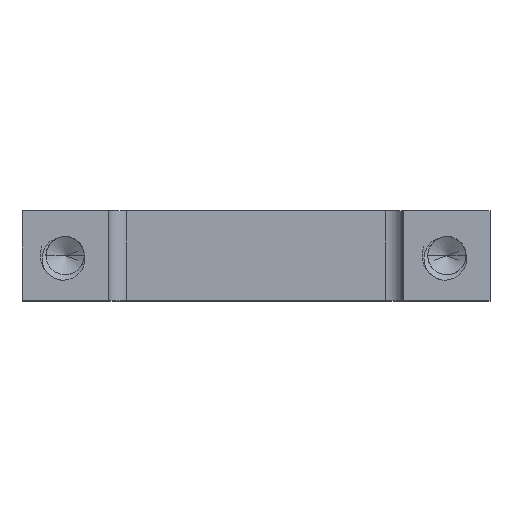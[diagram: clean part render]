
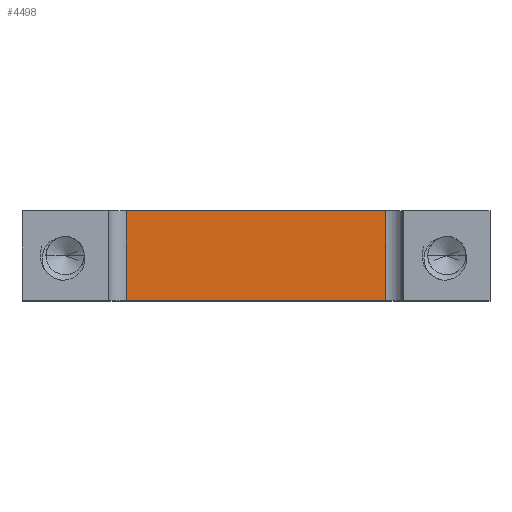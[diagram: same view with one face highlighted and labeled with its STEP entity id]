
A CAD part, top view. The second image highlights one B-rep face of the part: STEP entity #4498.
In plain terms, the highlighted planar face has unit normal (0, 0, 1).
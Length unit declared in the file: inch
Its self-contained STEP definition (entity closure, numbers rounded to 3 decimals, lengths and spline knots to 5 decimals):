
#127 = LINE ( 'NONE', #22335, #18244 ) ;
#1130 = ORIENTED_EDGE ( 'NONE', *, *, #7258, .T. ) ;
#1392 = CARTESIAN_POINT ( 'NONE',  ( -0.41035, 0., 0.5375 ) ) ;
#2219 = ORIENTED_EDGE ( 'NONE', *, *, #14670, .T. ) ;
#2321 = ORIENTED_EDGE ( 'NONE', *, *, #4918, .T. ) ;
#3186 = VECTOR ( 'NONE', #6502, 39.37008 ) ;
#3973 = CARTESIAN_POINT ( 'NONE',  ( -0.36035, 0., 0.5375 ) ) ;
#4067 = CARTESIAN_POINT ( 'NONE',  ( -0.36035, 0.25, 0.5375 ) ) ;
#4292 = DIRECTION ( 'NONE',  ( -1., 0., 0. ) ) ;
#4498 = ADVANCED_FACE ( 'NONE', ( #13816 ), #19098, .F. ) ;
#4525 = VECTOR ( 'NONE', #18205, 39.37008 ) ;
#4761 = LINE ( 'NONE', #18136, #22020 ) ;
#4853 = DIRECTION ( 'NONE',  ( -1., 0., 0. ) ) ;
#4918 = EDGE_CURVE ( 'NONE', #15732, #15948, #127, .T. ) ;
#5093 = LINE ( 'NONE', #18594, #3186 ) ;
#5352 = VERTEX_POINT ( 'NONE', #14828 ) ;
#6274 = AXIS2_PLACEMENT_3D ( 'NONE', #1392, #13604, #4853 ) ;
#6502 = DIRECTION ( 'NONE',  ( -1., 0., 0. ) ) ;
#7258 = EDGE_CURVE ( 'NONE', #11208, #5352, #20157, .T. ) ;
#11208 = VERTEX_POINT ( 'NONE', #4067 ) ;
#11494 = ORIENTED_EDGE ( 'NONE', *, *, #19647, .F. ) ;
#11795 = DIRECTION ( 'NONE',  ( 0., 1., 0. ) ) ;
#13604 = DIRECTION ( 'NONE',  ( 0., 0., -1. ) ) ;
#13816 = FACE_OUTER_BOUND ( 'NONE', #19534, .T. ) ;
#14670 = EDGE_CURVE ( 'NONE', #15948, #11208, #5093, .T. ) ;
#14828 = CARTESIAN_POINT ( 'NONE',  ( -0.36035, 0., 0.5375 ) ) ;
#15732 = VERTEX_POINT ( 'NONE', #18162 ) ;
#15948 = VERTEX_POINT ( 'NONE', #21038 ) ;
#18136 = CARTESIAN_POINT ( 'NONE',  ( -0.41035, 0., 0.5375 ) ) ;
#18162 = CARTESIAN_POINT ( 'NONE',  ( 0.36035, 0., 0.5375 ) ) ;
#18205 = DIRECTION ( 'NONE',  ( 0., -1., 0. ) ) ;
#18244 = VECTOR ( 'NONE', #11795, 39.37008 ) ;
#18594 = CARTESIAN_POINT ( 'NONE',  ( -0.41035, 0.25, 0.5375 ) ) ;
#19098 = PLANE ( 'NONE',  #6274 ) ;
#19534 = EDGE_LOOP ( 'NONE', ( #11494, #2321, #2219, #1130 ) ) ;
#19647 = EDGE_CURVE ( 'NONE', #15732, #5352, #4761, .T. ) ;
#20157 = LINE ( 'NONE', #3973, #4525 ) ;
#21038 = CARTESIAN_POINT ( 'NONE',  ( 0.36035, 0.25, 0.5375 ) ) ;
#22020 = VECTOR ( 'NONE', #4292, 39.37008 ) ;
#22335 = CARTESIAN_POINT ( 'NONE',  ( 0.36035, 0.25, 0.5375 ) ) ;
